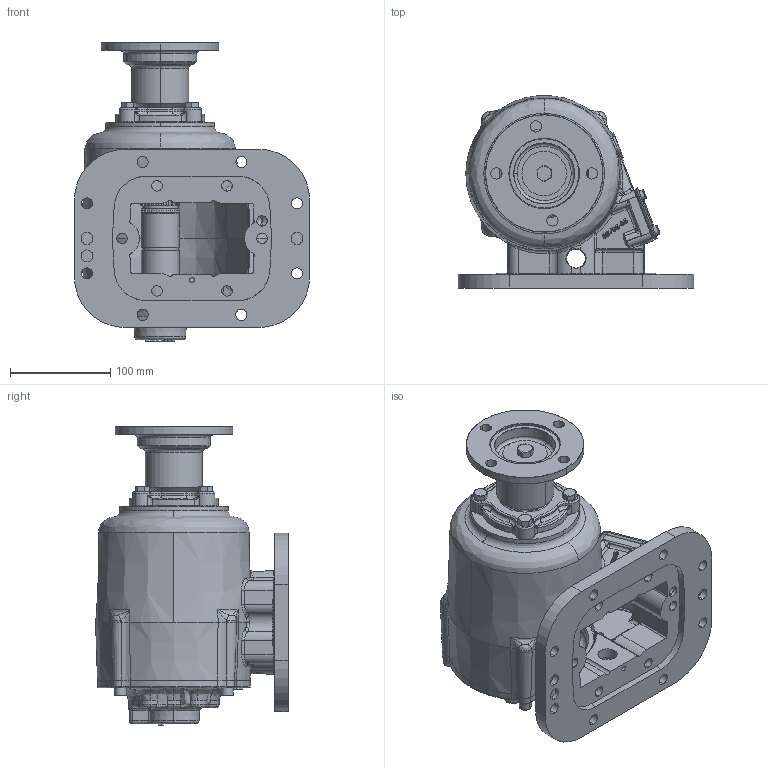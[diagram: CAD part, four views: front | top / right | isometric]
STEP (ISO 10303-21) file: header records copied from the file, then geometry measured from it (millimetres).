
FILE_DESCRIPTION (( 'STEP AP203' ), '1' );
FILE_NAME ('CS8S-XXXXX-E3CX.STEP', '2023-05-02T20:14:28', ( '' ), ( '' ), 'SwSTEP 2.0', 'SolidWorks 2021', '' );
FILE_SCHEMA (( 'CONFIG_CONTROL_DESIGN' ));
Length unit declared in the file: inch
Products named in the file (14): 15T41683; 19T41756; 15TA5220_Config1; 19T38266; 01t37075a; 19T41118; 16T41119; 06T37372_06T37372; 15T36717; 21T20092; 19T35237; 14T37357; 11T37790; CS8S-XXXXX-E3CX
Assembly tree (22 placements, depth 3):
  CS8S-XXXXX-E3CX
    01t37075a
    15T36717
    16T41119
    19T41118  x4
    19T35237  x4
    15TA5220_Config1
      15T41683
      11T37790
    19T41756  x4
    19T38266
    21T20092
    14T37357
    06T37372_06T37372
Bounding box: 234.7 x 192.11 x 297.95 mm (x, y, z)
Volume: 1826552.9 mm3; surface area: 492537.5 mm2
Topology: 21 solids, 21 shells, 2917 faces, 7525 edges, 4719 vertices
Faces by surface type: bspline 1014, plane 764, cylinder 627, cone 380, torus 132
Entity records: 228893 total; most frequent: CARTESIAN_POINT 169667, ORIENTED_EDGE 13902, DIRECTION 8790, EDGE_CURVE 6951, VERTEX_POINT 4410, AXIS2_PLACEMENT_3D 3304, B_SPLINE_CURVE_WITH_KNOTS 3102, EDGE_LOOP 2925
